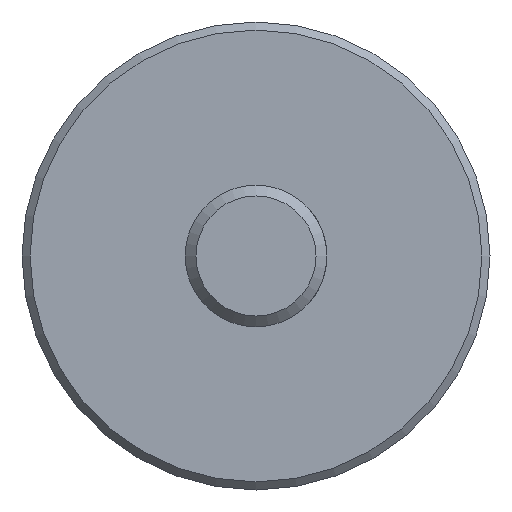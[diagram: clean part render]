
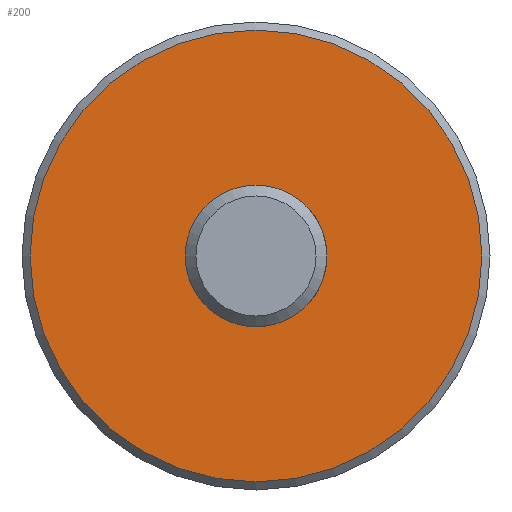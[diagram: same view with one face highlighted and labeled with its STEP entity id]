
A CAD part, front view. The second image highlights one B-rep face of the part: STEP entity #200.
In plain terms, the highlighted planar face has unit normal (0, -1, 0).
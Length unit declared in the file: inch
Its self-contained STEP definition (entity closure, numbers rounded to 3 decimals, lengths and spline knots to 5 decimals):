
#2 = PLANE ( 'NONE',  #261 ) ;
#21 = VERTEX_POINT ( 'NONE', #145 ) ;
#42 = AXIS2_PLACEMENT_3D ( 'NONE', #180, #86, #483 ) ;
#51 = EDGE_CURVE ( 'NONE', #243, #243, #298, .T. ) ;
#86 = DIRECTION ( 'NONE',  ( 0., 1., 0. ) ) ;
#145 = CARTESIAN_POINT ( 'NONE',  ( 0., 3.28, 1.255 ) ) ;
#158 = CARTESIAN_POINT ( 'NONE',  ( 0., 3.28, 0.3937 ) ) ;
#169 = CIRCLE ( 'NONE', #376, 1.255 ) ;
#180 = CARTESIAN_POINT ( 'NONE',  ( 0., 3.28, 0. ) ) ;
#200 = ADVANCED_FACE ( 'NONE', ( #233, #456 ), #2, .F. ) ;
#233 = FACE_OUTER_BOUND ( 'NONE', #276, .T. ) ;
#243 = VERTEX_POINT ( 'NONE', #158 ) ;
#261 = AXIS2_PLACEMENT_3D ( 'NONE', #287, #534, #544 ) ;
#276 = EDGE_LOOP ( 'NONE', ( #512 ) ) ;
#287 = CARTESIAN_POINT ( 'NONE',  ( 0.3937, 3.28, 0. ) ) ;
#298 = CIRCLE ( 'NONE', #42, 0.3937 ) ;
#316 = DIRECTION ( 'NONE',  ( 0., 0., 1. ) ) ;
#376 = AXIS2_PLACEMENT_3D ( 'NONE', #528, #399, #316 ) ;
#399 = DIRECTION ( 'NONE',  ( 0., 1., 0. ) ) ;
#456 = FACE_BOUND ( 'NONE', #480, .T. ) ;
#457 = ORIENTED_EDGE ( 'NONE', *, *, #51, .T. ) ;
#480 = EDGE_LOOP ( 'NONE', ( #457 ) ) ;
#483 = DIRECTION ( 'NONE',  ( 0., 0., 1. ) ) ;
#512 = ORIENTED_EDGE ( 'NONE', *, *, #568, .F. ) ;
#528 = CARTESIAN_POINT ( 'NONE',  ( 0., 3.28, 0. ) ) ;
#534 = DIRECTION ( 'NONE',  ( 0., 1., 0. ) ) ;
#544 = DIRECTION ( 'NONE',  ( 0., 0., 1. ) ) ;
#568 = EDGE_CURVE ( 'NONE', #21, #21, #169, .T. ) ;
